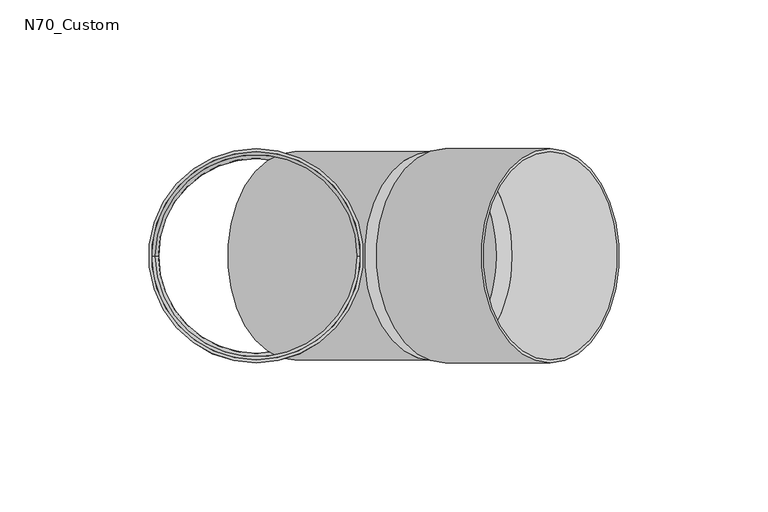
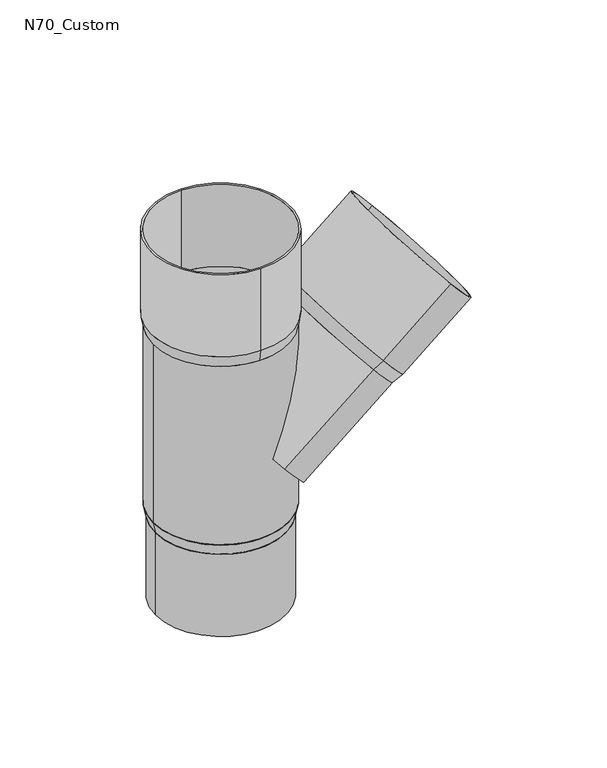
"""IFC4 building model written with IfcOpenShell, lengths in millimetres: proxy geometry, GROVIK_Downpipe_Branch : N70_Custom."""

from ifc_helpers import new_model, si_unit, point, frame, origin, origin_2d, place, context, project, spatial, polyline, circle_curve, trimmed, segment, composite_curve, outline, extrude, source, transform, mapped, element, save
from ifc_brep_helpers import plane_surface, revolved_surface, advanced_brep


def n70_custom_4bf1671f(model_context):
    return source(origin(), model_context, "Body", "SolidModel", [
        extrude(outline(composite_curve([segment(trimmed(circle_curve(origin_2d(), 36.0), [point((0.0, 36.0))], [point((0.0, -36.0))], False, "CARTESIAN"), True, "CONTINUOUS"), segment(trimmed(circle_curve(origin_2d(), 36.0), [point((0.0, -36.0))], [point((0.0, 36.0))], False, "CARTESIAN"), True, "CONTINUOUS")], self_intersect=False), holes=[composite_curve([segment(trimmed(circle_curve(origin_2d(), 35.0), [point((0.0, 35.0))], [point((0.0, -35.0))], True, "CARTESIAN"), True, "CONTINUOUS"), segment(trimmed(circle_curve(origin_2d(), 35.0), [point((0.0, -35.0))], [point((0.0, 35.0))], True, "CARTESIAN"), True, "CONTINUOUS")], self_intersect=False)]), frame((63.5589332, 0.0, 27.4239822), z_axis=(0.7660444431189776, 0.0, 0.64278760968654), x_axis=(0.64278760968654, 0.0, -0.7660444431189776)), (0.0, 0.0, 1.0), 46.0),
        advanced_brep(
        [(58.9626666, -35.0, 23.5672566), (58.9626666, 35.0, 23.5672566), (58.9626666, 33.9, 23.5672566), (58.9626666, -33.9, 23.5672566), (63.5589332, -36.0, 27.4239822), (63.5589332, 36.0, 27.4239822), (63.5589332, -35.0, 27.4239822), (63.5589332, 35.0, 27.4239822)],
        [
            (0, 1, circle_curve(frame((58.9626666, 0.0, 23.5672566), z_axis=(-0.7660444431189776, 0.0, -0.64278760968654), x_axis=(0.0, -1.0, 0.0)), 35.0)),
            (1, 0, circle_curve(frame((58.9626666, 0.0, 23.5672566), z_axis=(-0.7660444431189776, 0.0, -0.64278760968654), x_axis=(0.0, 1.0, 0.0)), 35.0)),
            (2, 3, circle_curve(frame((58.9626666, 0.0, 23.5672566), z_axis=(0.7660444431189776, 0.0, 0.64278760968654), x_axis=(0.0, -1.0, 0.0)), 33.9)),
            (3, 2, circle_curve(frame((58.9626666, 0.0, 23.5672566), z_axis=(0.7660444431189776, 0.0, 0.64278760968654), x_axis=(0.0, 1.0, 0.0)), 33.9)),
            (4, 5, circle_curve(frame((63.5589332, 0.0, 27.4239822), z_axis=(0.7660444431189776, 0.0, 0.64278760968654), x_axis=(0.0, 1.0, 0.0)), 36.0)),
            (5, 4, circle_curve(frame((63.5589332, 0.0, 27.4239822), z_axis=(0.7660444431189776, 0.0, 0.64278760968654), x_axis=(0.0, -1.0, 0.0)), 36.0)),
            (6, 7, circle_curve(frame((63.5589332, 0.0, 27.4239822), z_axis=(-0.7660444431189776, 0.0, -0.64278760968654), x_axis=(0.0, -1.0, 0.0)), 35.0)),
            (7, 6, circle_curve(frame((63.5589332, 0.0, 27.4239822), z_axis=(-0.7660444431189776, 0.0, -0.64278760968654), x_axis=(0.0, 1.0, 0.0)), 35.0)),
            (0, 4),
            (5, 1),
            (6, 3),
            (2, 7),
        ],
        [
            plane_surface(frame((58.9626666, 0.0, 23.5672566), z_axis=(-0.7660444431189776, 0.0, -0.64278760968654), x_axis=(-0.64278760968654, 0.0, 0.7660444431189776))),
            plane_surface(frame((63.5589332, 0.0, 27.4239822), z_axis=(0.7660444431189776, 0.0, 0.64278760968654), x_axis=(-0.64278760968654, 0.0, 0.7660444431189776))),
            revolved_surface(polyline([(58.96266660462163, -35.00000001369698, 23.56725659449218), (63.558933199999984, -36.0, 27.423982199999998)]), (-101.9066665, 0.0, -111.4181415), (0.7660444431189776, 0.0, 0.64278760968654)),
            revolved_surface(polyline([(58.96266660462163, 35.00000001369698, 23.56725659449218), (63.558933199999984, 36.0, 27.423982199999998)]), (-101.9066665, 0.0, -111.4181415), (0.7660444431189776, 0.0, 0.64278760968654)),
            revolved_surface(polyline([(63.558933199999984, -35.0, 27.423982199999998), (58.962666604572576, -33.90000001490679, 23.5672565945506)]), (-82.685915, 0.0, -95.290016), (0.7660444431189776, 0.0, 0.64278760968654)),
        ],
        [
            (0, [[1, 2], [3, 4]]),
            (1, [[5, 6], [7, 8]]),
            (2, [[-1, 9, -6, 10]]),
            (3, [[-2, -10, -5, -9]]),
            (4, [[11, -3, 12, -7]]),
            (4, [[-11, -8, -12, -4]]),
        ],
    ),
        extrude(outline(composite_curve([segment(trimmed(circle_curve(origin_2d(), 35.0), [point((0.0, 35.0))], [point((0.0, -35.0))], False, "CARTESIAN"), True, "CONTINUOUS"), segment(trimmed(circle_curve(origin_2d(), 35.0), [point((0.0, -35.0))], [point((0.0, 35.0))], False, "CARTESIAN"), True, "CONTINUOUS")], self_intersect=False), holes=[composite_curve([segment(trimmed(circle_curve(origin_2d(), 33.9), [point((0.0, 33.9))], [point((0.0, -33.9))], True, "CARTESIAN"), True, "CONTINUOUS"), segment(trimmed(circle_curve(origin_2d(), 33.9), [point((0.0, -33.9))], [point((0.0, 33.9))], True, "CARTESIAN"), True, "CONTINUOUS")], self_intersect=False)]), frame((13.0, 0.0, -15.0), z_axis=(0.7660444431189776, 0.0, 0.64278760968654), x_axis=(0.64278760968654, 0.0, -0.7660444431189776)), (0.0, 0.0, 1.0), 60.0),
        extrude(outline(composite_curve([segment(trimmed(circle_curve(origin_2d(), 36.0), [point((0.0, 36.0))], [point((0.0, -36.0))], False, "CARTESIAN"), True, "CONTINUOUS"), segment(trimmed(circle_curve(origin_2d(), 36.0), [point((0.0, -36.0))], [point((0.0, 36.0))], False, "CARTESIAN"), True, "CONTINUOUS")], self_intersect=False), holes=[composite_curve([segment(trimmed(circle_curve(origin_2d(), 35.0), [point((0.0, 35.0))], [point((0.0, -35.0))], True, "CARTESIAN"), True, "CONTINUOUS"), segment(trimmed(circle_curve(origin_2d(), 35.0), [point((0.0, -35.0))], [point((0.0, 35.0))], True, "CARTESIAN"), True, "CONTINUOUS")], self_intersect=False)]), frame((0.0, 0.0, 55.0), z_axis=(0.0, 0.0, 1.0), x_axis=(1.0, 0.0, 0.0)), (0.0, 0.0, 1.0), 45.0),
        extrude(outline(composite_curve([segment(trimmed(circle_curve(origin_2d(), 33.75), [point((33.75, 0.0))], [point((-33.75, 0.0))], False, "CARTESIAN"), True, "CONTINUOUS"), segment(trimmed(circle_curve(origin_2d(), 33.75), [point((-33.75, 0.0))], [point((33.75, 0.0))], False, "CARTESIAN"), True, "CONTINUOUS")], self_intersect=False), holes=[composite_curve([segment(trimmed(circle_curve(origin_2d(), 32.75), [point((32.75, 0.0))], [point((-32.75, 0.0))], True, "CARTESIAN"), True, "CONTINUOUS"), segment(trimmed(circle_curve(origin_2d(), 32.75), [point((-32.75, 0.0))], [point((32.75, 0.0))], True, "CARTESIAN"), True, "CONTINUOUS")], self_intersect=False)]), frame((0.0, 0.0, -100.0), z_axis=(0.0, 0.0, 1.0), x_axis=(1.0, 0.0, 0.0)), (0.0, 0.0, 1.0), 45.0),
        advanced_brep(
        [(35.0, 0.0, -49.0), (-35.0, 0.0, -49.0), (-34.0, 0.0, -49.0), (34.0, 0.0, -49.0), (33.75, 0.0, -55.0), (-33.75, 0.0, -55.0), (32.75, 0.0, -55.0), (-32.75, 0.0, -55.0)],
        [
            (0, 1, circle_curve(frame((0.0, 0.0, -49.0), z_axis=(0.0, 0.0, 1.0), x_axis=(1.0, 0.0, 0.0)), 35.0)),
            (1, 0, circle_curve(frame((0.0, 0.0, -49.0), z_axis=(0.0, 0.0, 1.0), x_axis=(-1.0, 0.0, 0.0)), 35.0)),
            (2, 3, circle_curve(frame((0.0, 0.0, -49.0), z_axis=(0.0, 0.0, -1.0), x_axis=(1.0, 0.0, 0.0)), 34.0)),
            (3, 2, circle_curve(frame((0.0, 0.0, -49.0), z_axis=(0.0, 0.0, -1.0), x_axis=(-1.0, 0.0, 0.0)), 34.0)),
            (4, 5, circle_curve(frame((0.0, 0.0, -55.0), z_axis=(0.0, 0.0, -1.0), x_axis=(-1.0, 0.0, 0.0)), 33.75)),
            (5, 4, circle_curve(frame((0.0, 0.0, -55.0), z_axis=(0.0, 0.0, -1.0), x_axis=(1.0, 0.0, 0.0)), 33.75)),
            (6, 7, circle_curve(frame((0.0, 0.0, -55.0), z_axis=(0.0, 0.0, 1.0), x_axis=(1.0, 0.0, 0.0)), 32.75)),
            (7, 6, circle_curve(frame((0.0, 0.0, -55.0), z_axis=(0.0, 0.0, 1.0), x_axis=(-1.0, 0.0, 0.0)), 32.75)),
            (0, 4),
            (5, 1),
            (6, 3),
            (2, 7),
        ],
        [
            plane_surface(frame((0.0, 0.0, -49.0), z_axis=(0.0, 0.0, 1.0), x_axis=(0.0, 1.0, 0.0))),
            plane_surface(frame((0.0, 0.0, -55.0), z_axis=(0.0, 0.0, -1.0), x_axis=(0.0, 1.0, 0.0))),
            revolved_surface(polyline([(-33.75, 0.0, -55.0), (-35.0, 0.0, -49.0)]), (0.0, 0.0, -217.0), (0.0, 0.0, 1.0)),
            revolved_surface(polyline([(33.75, 0.0, -55.0), (35.0, 0.0, -49.0)]), (0.0, 0.0, -217.0), (0.0, 0.0, 1.0)),
            revolved_surface(polyline([(34.0, 0.0, -49.0), (32.75, 0.0, -55.0)]), (0.0, 0.0, -212.2), (0.0, 0.0, 1.0)),
        ],
        [
            (0, [[1, 2], [3, 4]]),
            (1, [[5, 6], [7, 8]]),
            (2, [[-1, 9, -6, 10]]),
            (3, [[-2, -10, -5, -9]]),
            (4, [[11, -3, 12, -7]]),
            (4, [[-11, -8, -12, -4]]),
        ],
    ),
        advanced_brep(
        [(0.0, 36.0, 55.0), (0.0, -36.0, 55.0), (-35.0, 0.0, 55.0), (35.0, 0.0, 55.0), (0.0, 35.0, 49.0), (0.0, -35.0, 49.0), (34.0, 0.0, 49.0), (-34.0, 0.0, 49.0)],
        [
            (0, 1, circle_curve(frame((0.0, 0.0, 55.0), z_axis=(0.0, 0.0, 1.0), x_axis=(0.0, 1.0, 0.0)), 36.0)),
            (1, 0, circle_curve(frame((0.0, 0.0, 55.0), z_axis=(0.0, 0.0, 1.0), x_axis=(0.0, -1.0, 0.0)), 36.0)),
            (2, 3, circle_curve(frame((0.0, 0.0, 55.0), z_axis=(0.0, 0.0, -1.0), x_axis=(-1.0, 0.0, 0.0)), 35.0)),
            (3, 2, circle_curve(frame((0.0, 0.0, 55.0), z_axis=(0.0, 0.0, -1.0), x_axis=(1.0, 0.0, 0.0)), 35.0)),
            (4, 5, circle_curve(frame((0.0, 0.0, 49.0), z_axis=(0.0, 0.0, -1.0), x_axis=(0.0, -1.0, 0.0)), 35.0)),
            (5, 4, circle_curve(frame((0.0, 0.0, 49.0), z_axis=(0.0, 0.0, -1.0), x_axis=(0.0, 1.0, 0.0)), 35.0)),
            (6, 7, circle_curve(frame((0.0, 0.0, 49.0), z_axis=(0.0, 0.0, 1.0), x_axis=(-1.0, 0.0, 0.0)), 34.0)),
            (7, 6, circle_curve(frame((0.0, 0.0, 49.0), z_axis=(0.0, 0.0, 1.0), x_axis=(1.0, 0.0, 0.0)), 34.0)),
            (0, 4),
            (5, 1),
            (2, 7),
            (6, 3),
        ],
        [
            plane_surface(frame((0.0, 0.0, 55.0), z_axis=(0.0, 0.0, 1.0), x_axis=(-1.0, 0.0, 0.0))),
            plane_surface(frame((0.0, 0.0, 49.0), z_axis=(0.0, 0.0, -1.0), x_axis=(-1.0, 0.0, 0.0))),
            revolved_surface(polyline([(0.0, -35.0, 49.0), (0.0, -36.0, 55.0)]), (0.0, 0.0, -161.0), (0.0, 0.0, 1.0)),
            revolved_surface(polyline([(0.0, 35.0, 49.0), (0.0, 36.0, 55.0)]), (0.0, 0.0, -161.0), (0.0, 0.0, 1.0)),
            revolved_surface(polyline([(-35.0, 0.0, 55.0), (-34.0, 0.0, 49.0)]), (0.0, 0.0, -155.0), (0.0, 0.0, 1.0)),
        ],
        [
            (0, [[1, 2], [3, 4]]),
            (1, [[5, 6], [7, 8]]),
            (2, [[-1, 9, -6, 10]]),
            (3, [[-2, -10, -5, -9]]),
            (4, [[11, -7, 12, -3]]),
            (4, [[-11, -4, -12, -8]]),
        ],
    ),
        extrude(outline(composite_curve([segment(trimmed(circle_curve(origin_2d(), 35.0), [point((-35.0, 0.0))], [point((35.0, 0.0))], False, "CARTESIAN"), True, "CONTINUOUS"), segment(trimmed(circle_curve(origin_2d(), 35.0), [point((35.0, 0.0))], [point((-35.0, 0.0))], False, "CARTESIAN"), True, "CONTINUOUS")], self_intersect=False), holes=[composite_curve([segment(trimmed(circle_curve(origin_2d(), 34.0), [point((-34.0, 0.0))], [point((34.0, 0.0))], True, "CARTESIAN"), True, "CONTINUOUS"), segment(trimmed(circle_curve(origin_2d(), 34.0), [point((34.0, 0.0))], [point((-34.0, 0.0))], True, "CARTESIAN"), True, "CONTINUOUS")], self_intersect=False)]), frame((0.0, 0.0, -49.0), z_axis=(0.0, 0.0, 1.0), x_axis=(1.0, 0.0, 0.0)), (0.0, 0.0, 1.0), 98.0),
    ])


if __name__ == "__main__":
    model = new_model("IFC4")
    model_context = context("Model", 3, world=origin())
    ifc_project = project(units=[si_unit("LENGTHUNIT", "METRE", prefix="MILLI")], contexts=[model_context])
    site = spatial("IfcSite", under=ifc_project)
    building = spatial("IfcBuilding", under=site)
    placement = place(None, origin())
    n70_custom_shape = n70_custom_4bf1671f(model_context)
    element("IfcBuildingElementProxy", 1, Name="GROVIK_Downpipe_Branch : N70_Custom", ObjectType="GROVIK_Downpipe_Branch : N70_Custom", at=placement, inside=building, context=model_context, shape_type="MappedRepresentation", body=[
        mapped(n70_custom_shape, transform((0.0, 0.0, 0.0), x_axis=(1.0, 0.0, 0.0), y_axis=(0.0, 1.0, 0.0), z_axis=(0.0, 0.0, 1.0))),
    ])
    save(model, "model.ifc")
